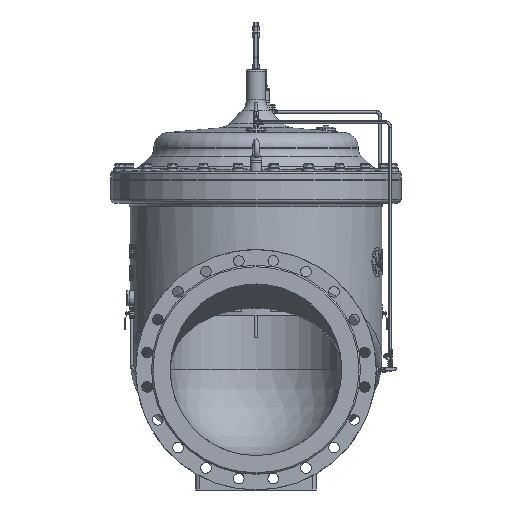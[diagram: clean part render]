
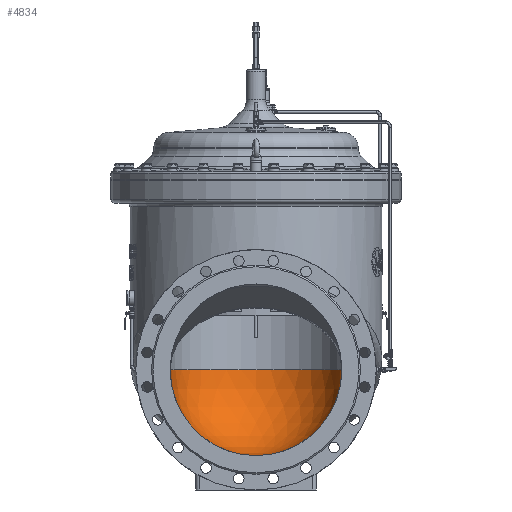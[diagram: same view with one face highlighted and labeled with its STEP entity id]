
A CAD part, left-side view. The second image highlights one B-rep face of the part: STEP entity #4834.
In plain terms, the highlighted spherical face has radius 300 mm.
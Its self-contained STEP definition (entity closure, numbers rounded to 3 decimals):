
#4834=ADVANCED_FACE('',(#17610),#17612,.F.);
#17610=FACE_BOUND('',#17611,.T.);
#17611=EDGE_LOOP('',(#44392,#44393,#44394,#44395,#44396,#44397,#44398));
#17612=SPHERICAL_SURFACE('',#17613,300.);
#17613=AXIS2_PLACEMENT_3D('',#17614,#17615,#17616);
#17614=CARTESIAN_POINT('',(0.,0.,0.));
#17615=DIRECTION('',(0.,0.,-1.));
#17616=DIRECTION('',(0.,1.,0.));
#44392=ORIENTED_EDGE('',*,*,#53123,.T.);
#44393=ORIENTED_EDGE('',*,*,#53124,.T.);
#44394=ORIENTED_EDGE('',*,*,#53125,.F.);
#44395=ORIENTED_EDGE('',*,*,#52867,.F.);
#44396=ORIENTED_EDGE('',*,*,#53126,.T.);
#44397=ORIENTED_EDGE('',*,*,#53127,.T.);
#44398=ORIENTED_EDGE('',*,*,#53128,.T.);
#52867=EDGE_CURVE('',#57560,#57562,#57563,.T.);
#53123=EDGE_CURVE('',#58044,#58045,#58046,.T.);
#53124=EDGE_CURVE('',#58045,#58047,#58048,.T.);
#53125=EDGE_CURVE('',#57562,#58047,#58049,.T.);
#53126=EDGE_CURVE('',#57560,#58050,#58051,.T.);
#53127=EDGE_CURVE('',#58050,#58052,#58053,.F.);
#53128=EDGE_CURVE('',#58052,#58044,#58054,.T.);
#57560=VERTEX_POINT('',#72692);
#57562=VERTEX_POINT('',#72696);
#57563=CIRCLE('',#72697,300.);
#58044=VERTEX_POINT('',#80292);
#58045=VERTEX_POINT('',#80293);
#58046=CIRCLE('',#80294,5.5);
#58047=VERTEX_POINT('',#80298);
#58048=CIRCLE('',#80299,300.);
#58049=CIRCLE('',#80303,300.);
#58050=VERTEX_POINT('',#80307);
#58051=CIRCLE('',#80308,300.);
#58052=VERTEX_POINT('',#80312);
#58053=CIRCLE('',#80313,300.);
#58054=CIRCLE('',#80317,5.5);
#72692=CARTESIAN_POINT('',(0.,300.,0.));
#72696=CARTESIAN_POINT('',(0.,-300.,0.));
#72697=AXIS2_PLACEMENT_3D('',#72698,#72699,#72700);
#72698=CARTESIAN_POINT('',(0.,0.,0.));
#72699=DIRECTION('',(0.,0.,-1.));
#72700=DIRECTION('',(0.,1.,0.));
#80292=CARTESIAN_POINT('',(5.5,0.,-299.95));
#80293=CARTESIAN_POINT('',(0.,-5.5,-299.95));
#80294=AXIS2_PLACEMENT_3D('',#80295,#80296,#80297);
#80295=CARTESIAN_POINT('',(0.,0.,-299.95));
#80296=DIRECTION('',(0.,0.,-1.));
#80297=DIRECTION('',(1.,0.,0.));
#80298=CARTESIAN_POINT('',(0.,-299.599,-15.5));
#80299=AXIS2_PLACEMENT_3D('',#80300,#80301,#80302);
#80300=CARTESIAN_POINT('',(0.,0.,0.));
#80301=DIRECTION('',(-1.,0.,0.));
#80302=DIRECTION('',(0.,-0.018,-1.));
#80303=AXIS2_PLACEMENT_3D('',#80304,#80305,#80306);
#80304=CARTESIAN_POINT('',(0.,0.,0.));
#80305=DIRECTION('',(1.,0.,0.));
#80306=DIRECTION('',(0.,-1.,0.));
#80307=CARTESIAN_POINT('',(0.,299.599,-15.5));
#80308=AXIS2_PLACEMENT_3D('',#80309,#80310,#80311);
#80309=CARTESIAN_POINT('',(0.,0.,0.));
#80310=DIRECTION('',(-1.,0.,0.));
#80311=DIRECTION('',(0.,1.,0.));
#80312=CARTESIAN_POINT('',(0.,5.5,-299.95));
#80313=AXIS2_PLACEMENT_3D('',#80314,#80315,#80316);
#80314=CARTESIAN_POINT('',(0.,0.,0.));
#80315=DIRECTION('',(1.,0.,0.));
#80316=DIRECTION('',(0.,0.018,-1.));
#80317=AXIS2_PLACEMENT_3D('',#80318,#80319,#80320);
#80318=CARTESIAN_POINT('',(0.,0.,-299.95));
#80319=DIRECTION('',(0.,0.,-1.));
#80320=DIRECTION('',(0.,1.,0.));
